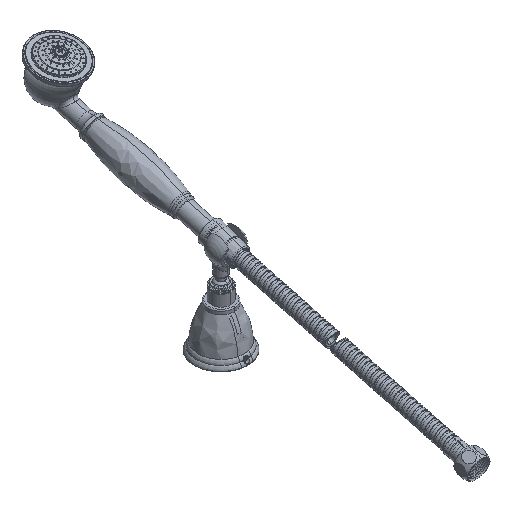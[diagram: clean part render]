
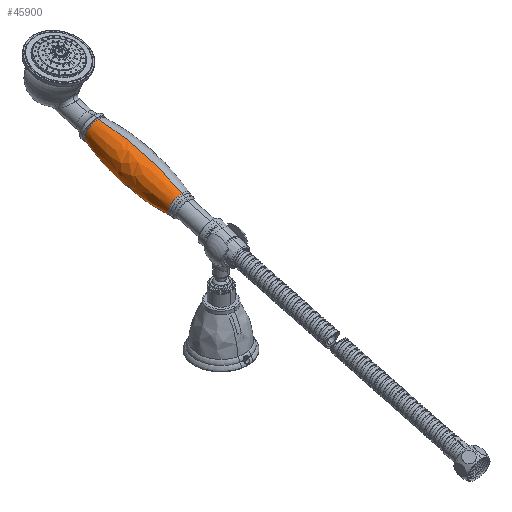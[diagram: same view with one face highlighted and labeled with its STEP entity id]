
A CAD part, isometric view. The second image highlights one B-rep face of the part: STEP entity #45900.
In plain terms, the highlighted free-form (B-spline) face has degree [3, 3] with [7, 4] control points.
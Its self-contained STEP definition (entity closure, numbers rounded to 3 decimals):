
#45706=CARTESIAN_POINT('',(0.,0.,-183.12));
#45707=DIRECTION('',(-1.,0.,0.));
#45708=DIRECTION('',(0.,-0.219,0.976));
#45709=AXIS2_PLACEMENT_3D('',#45706,#45707,#45708);
#45711=CARTESIAN_POINT('',(0.,-43.437,0.));
#45712=DIRECTION('',(0.,-1.,0.));
#45713=DIRECTION('',(0.,0.,1.));
#45714=AXIS2_PLACEMENT_3D('',#45711,#45712,#45713);
#45716=CARTESIAN_POINT('',(0.,0.,183.12));
#45717=DIRECTION('',(1.,0.,0.));
#45718=DIRECTION('',(0.,-0.219,-0.976));
#45719=AXIS2_PLACEMENT_3D('',#45716,#45717,#45718);
#45784=CARTESIAN_POINT('',(0.,43.437,0.));
#45785=DIRECTION('',(0.,-1.,0.));
#45786=DIRECTION('',(0.,0.,1.));
#45787=AXIS2_PLACEMENT_3D('',#45784,#45785,#45786);
#45807=CARTESIAN_POINT('',(0.,-43.437,10.846));
#45808=CARTESIAN_POINT('',(0.,43.437,10.846));
#45809=VERTEX_POINT('',#45807);
#45810=VERTEX_POINT('',#45808);
#45815=CARTESIAN_POINT('',(0.,-43.437,-10.846));
#45816=CARTESIAN_POINT('',(0.,43.437,-10.846));
#45817=VERTEX_POINT('',#45815);
#45818=VERTEX_POINT('',#45816);
#45863=CARTESIAN_POINT('',(0.657,-45.145,
-10.435));
#45864=CARTESIAN_POINT('',(1.093,-15.315,
-17.378));
#45865=CARTESIAN_POINT('',(1.093,15.315,
-17.378));
#45866=CARTESIAN_POINT('',(0.657,45.145,
-10.435));
#45867=CARTESIAN_POINT('',(-5.765,-45.145,
-10.839));
#45868=CARTESIAN_POINT('',(-9.601,-15.315,
-18.051));
#45869=CARTESIAN_POINT('',(-9.601,15.315,
-18.051));
#45870=CARTESIAN_POINT('',(-5.765,45.145,
-10.839));
#45871=CARTESIAN_POINT('',(-10.456,-45.145,
-6.434));
#45872=CARTESIAN_POINT('',(-17.412,-15.315,
-10.715));
#45873=CARTESIAN_POINT('',(-17.412,15.315,
-10.715));
#45874=CARTESIAN_POINT('',(-10.456,45.145,
-6.434));
#45875=CARTESIAN_POINT('',(-10.456,-45.145,0.));
#45876=CARTESIAN_POINT('',(-17.412,-15.315,0.));
#45877=CARTESIAN_POINT('',(-17.412,15.315,0.));
#45878=CARTESIAN_POINT('',(-10.456,45.145,0.));
#45879=CARTESIAN_POINT('',(-10.456,-45.145,
6.434));
#45880=CARTESIAN_POINT('',(-17.412,-15.315,
10.715));
#45881=CARTESIAN_POINT('',(-17.412,15.315,
10.715));
#45882=CARTESIAN_POINT('',(-10.456,45.145,
6.434));
#45883=CARTESIAN_POINT('',(-5.765,-45.145,
10.839));
#45884=CARTESIAN_POINT('',(-9.601,-15.315,
18.051));
#45885=CARTESIAN_POINT('',(-9.601,15.315,
18.051));
#45886=CARTESIAN_POINT('',(-5.765,45.145,
10.839));
#45887=CARTESIAN_POINT('',(0.657,-45.145,
10.435));
#45888=CARTESIAN_POINT('',(1.093,-15.315,
17.378));
#45889=CARTESIAN_POINT('',(1.093,15.315,17.378));
#45890=CARTESIAN_POINT('',(0.657,45.145,
10.435));
#45891=(BOUNDED_SURFACE()B_SPLINE_SURFACE(3,3,((#45863,#45864,#45865,#45866),(
#45867,#45868,#45869,#45870),(#45871,#45872,#45873,#45874),(#45875,#45876,
#45877,#45878),(#45879,#45880,#45881,#45882),(#45883,#45884,#45885,#45886),(
#45887,#45888,#45889,#45890)),.UNSPECIFIED.,.F.,.F.,.F.)B_SPLINE_SURFACE_WITH_KNOTS((4,3,4),(4,4),(0.,1.,2.),(0.,1.),.UNSPECIFIED.)GEOMETRIC_REPRESENTATION_ITEM()RATIONAL_B_SPLINE_SURFACE(((1.203,1.182,
1.182,1.203),(0.95,0.933,
0.933,0.95),(0.95,0.933,
0.933,0.95),(1.203,1.182,
1.182,1.203),(0.95,0.933,
0.933,0.95),(0.95,0.933,
0.933,0.95),(1.203,1.182,
1.182,1.203)))REPRESENTATION_ITEM('')SURFACE());
#45892=ORIENTED_EDGE('',*,*,#45852,.F.);
#45894=ORIENTED_EDGE('',*,*,#45893,.T.);
#45895=ORIENTED_EDGE('',*,*,#45856,.T.);
#45897=ORIENTED_EDGE('',*,*,#45896,.F.);
#45898=EDGE_LOOP('',(#45892,#45894,#45895,#45897));
#45899=FACE_OUTER_BOUND('',#45898,.F.);
#45900=ADVANCED_FACE('',(#45899),#45891,.T.);
#45710=CIRCLE('',#45709,198.77);
#45715=CIRCLE('',#45714,10.846);
#45720=CIRCLE('',#45719,198.77);
#45788=CIRCLE('',#45787,10.846);
#45852=EDGE_CURVE('',#45809,#45810,#45710,.T.);
#45856=EDGE_CURVE('',#45817,#45818,#45720,.T.);
#45893=EDGE_CURVE('',#45809,#45817,#45715,.T.);
#45896=EDGE_CURVE('',#45810,#45818,#45788,.T.);
